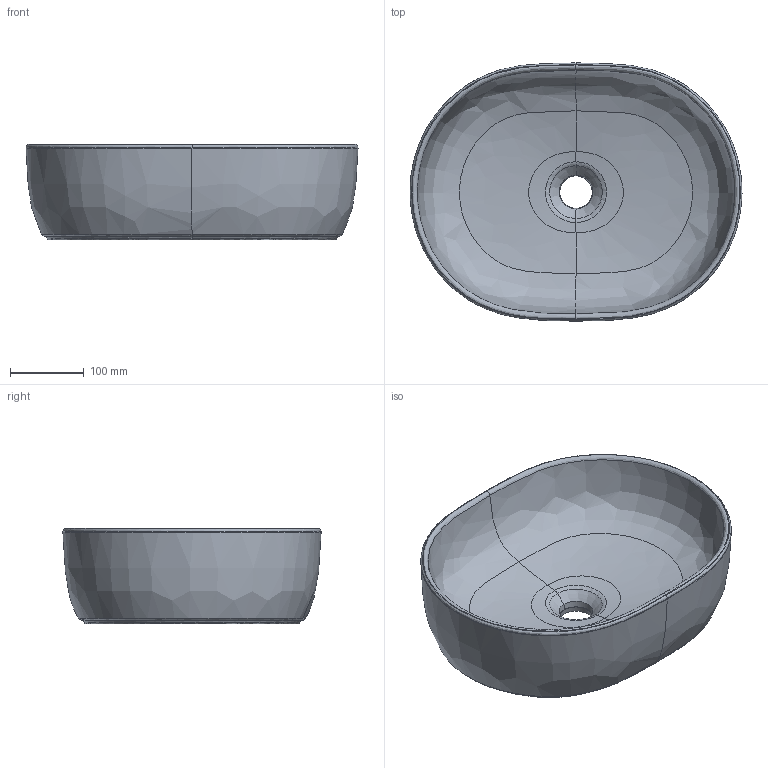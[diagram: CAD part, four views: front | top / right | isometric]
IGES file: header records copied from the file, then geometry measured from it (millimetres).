
Global section: file name: 510014; native system: Autodesk Inventor 2023; preprocessor: unknown; author: JANAN; date: 20241002.131400; units: millimetre
Bounding box: 449.99 x 350 x 130.05 mm (x, y, z)
Volume: 6266782.7 mm3; surface area: 463537.3 mm2
Topology: 1 solids, 1 shells, 41 faces, 92 edges, 55 vertices
Faces by surface type: bspline 41
